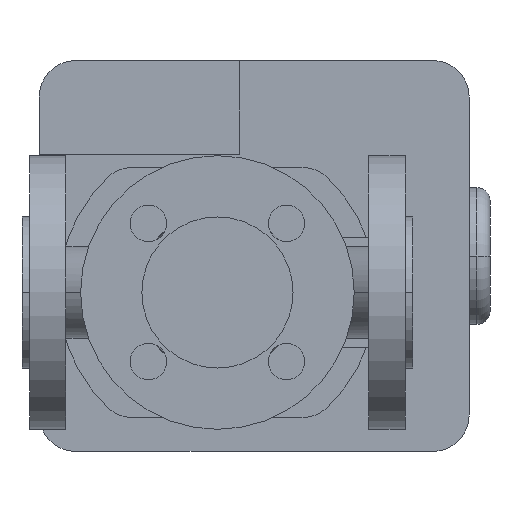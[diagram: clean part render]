
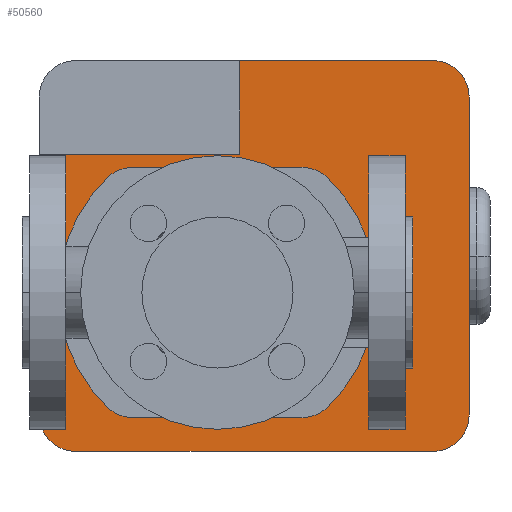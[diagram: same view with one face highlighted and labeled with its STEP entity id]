
A CAD part, front view. The second image highlights one B-rep face of the part: STEP entity #50560.
In plain terms, the highlighted planar face has unit normal (0, -1, 0).
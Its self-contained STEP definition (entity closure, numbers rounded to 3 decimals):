
#38390=CARTESIAN_POINT('',(134.96,313.,11.216));
#38400=VERTEX_POINT('',#38390);
#38430=CARTESIAN_POINT('',(125.,313.,0.));
#38440=DIRECTION('',(0.,1.,0.));
#38450=DIRECTION('',(0.,0.,1.));
#38460=AXIS2_PLACEMENT_3D('',#38430,#38440,#38450);
#38470=CIRCLE('',#38460,15.);
#38480=CARTESIAN_POINT('',(134.96,313.,-11.216));
#38490=VERTEX_POINT('',#38480);
#38500=EDGE_CURVE('',#38400,#38490,#38470,.T.);
#41220=CARTESIAN_POINT('',(117.116,313.,44.128));
#41230=VERTEX_POINT('',#41220);
#41260=CARTESIAN_POINT('',(75.,313.,0.));
#41270=DIRECTION('',(0.,1.,0.));
#41280=DIRECTION('',(0.69,0.,0.723));
#41290=AXIS2_PLACEMENT_3D('',#41260,#41270,#41280);
#41300=CIRCLE('',#41290,61.);
#41310=EDGE_CURVE('',#41230,#38400,#41300,.T.);
#41700=CARTESIAN_POINT('',(15.04,313.,-11.216));
#41710=VERTEX_POINT('',#41700);
#41740=CARTESIAN_POINT('',(25.,313.,0.));
#41750=DIRECTION('',(0.,1.,0.));
#41760=DIRECTION('',(0.,0.,-1.));
#41770=AXIS2_PLACEMENT_3D('',#41740,#41750,#41760);
#41780=CIRCLE('',#41770,15.);
#41790=CARTESIAN_POINT('',(15.04,313.,11.216));
#41800=VERTEX_POINT('',#41790);
#41810=EDGE_CURVE('',#41710,#41800,#41780,.T.);
#42800=CARTESIAN_POINT('',(32.884,313.,-44.128));
#42810=VERTEX_POINT('',#42800);
#42840=CARTESIAN_POINT('',(75.,313.,0.));
#42850=DIRECTION('',(0.,1.,0.));
#42860=DIRECTION('',(-0.69,0.,-0.723));
#42870=AXIS2_PLACEMENT_3D('',#42840,#42850,#42860);
#42880=CIRCLE('',#42870,61.);
#42890=EDGE_CURVE('',#42810,#41710,#42880,.T.);
#45200=CARTESIAN_POINT('',(157.6,313.,-61.));
#45210=VERTEX_POINT('',#45200);
#45260=CARTESIAN_POINT('',(157.6,313.,-47.));
#45270=DIRECTION('',(0.,1.,0.));
#45280=DIRECTION('',(1.,0.,0.));
#45290=AXIS2_PLACEMENT_3D('',#45260,#45270,#45280);
#45300=CIRCLE('',#45290,14.);
#45310=CARTESIAN_POINT('',(171.6,313.,-47.));
#45320=VERTEX_POINT('',#45310);
#45330=EDGE_CURVE('',#45320,#45210,#45300,.T.);
#48150=CARTESIAN_POINT('',(171.6,313.,75.));
#48160=VERTEX_POINT('',#48150);
#48210=CARTESIAN_POINT('',(157.6,313.,75.));
#48220=DIRECTION('',(0.,1.,0.));
#48230=DIRECTION('',(0.,0.,1.));
#48240=AXIS2_PLACEMENT_3D('',#48210,#48220,#48230);
#48250=CIRCLE('',#48240,14.);
#48260=CARTESIAN_POINT('',(157.6,313.,89.));
#48270=VERTEX_POINT('',#48260);
#48280=EDGE_CURVE('',#48270,#48160,#48250,.T.);
#48700=CARTESIAN_POINT('',(171.6,313.,75.));
#48710=DIRECTION('',(0.,0.,-1.));
#48720=VECTOR('',#48710,1.);
#48730=LINE('',#48700,#48720);
#48740=EDGE_CURVE('',#48160,#45320,#48730,.T.);
#49270=CARTESIAN_POINT('',(75.,313.,0.));
#49280=DIRECTION('',(0.,1.,0.));
#49290=DIRECTION('',(0.,0.,1.));
#49300=AXIS2_PLACEMENT_3D('',#49270,#49280,#49290);
#49310=PLANE('',#49300);
#49320=ORIENTED_EDGE('',*,*,#41310,.T.);
#49330=CARTESIAN_POINT('',(107.45,313.,34.));
#49340=DIRECTION('',(0.,1.,0.));
#49350=DIRECTION('',(0.,0.,1.));
#49360=AXIS2_PLACEMENT_3D('',#49330,#49340,#49350);
#49370=CIRCLE('',#49360,14.);
#49380=CARTESIAN_POINT('',(107.45,313.,48.));
#49390=VERTEX_POINT('',#49380);
#49400=EDGE_CURVE('',#49390,#41230,#49370,.T.);
#49410=ORIENTED_EDGE('',*,*,#49400,.T.);
#49420=CARTESIAN_POINT('',(58.775,313.,48.));
#49430=DIRECTION('',(1.,0.,0.));
#49440=VECTOR('',#49430,1.);
#49450=LINE('',#49420,#49440);
#49460=CARTESIAN_POINT('',(42.55,313.,48.));
#49470=VERTEX_POINT('',#49460);
#49480=EDGE_CURVE('',#49470,#49390,#49450,.T.);
#49490=ORIENTED_EDGE('',*,*,#49480,.T.);
#49500=CARTESIAN_POINT('',(42.55,313.,34.));
#49510=DIRECTION('',(0.,1.,0.));
#49520=DIRECTION('',(-0.69,0.,0.723));
#49530=AXIS2_PLACEMENT_3D('',#49500,#49510,#49520);
#49540=CIRCLE('',#49530,14.);
#49550=CARTESIAN_POINT('',(32.884,313.,44.128));
#49560=VERTEX_POINT('',#49550);
#49570=EDGE_CURVE('',#49560,#49470,#49540,.T.);
#49580=ORIENTED_EDGE('',*,*,#49570,.T.);
#49590=CARTESIAN_POINT('',(75.,313.,0.));
#49600=DIRECTION('',(0.,1.,0.));
#49610=DIRECTION('',(-0.69,0.,-0.723));
#49620=AXIS2_PLACEMENT_3D('',#49590,#49600,#49610);
#49630=CIRCLE('',#49620,61.);
#49640=EDGE_CURVE('',#41800,#49560,#49630,.T.);
#49650=ORIENTED_EDGE('',*,*,#49640,.T.);
#49660=ORIENTED_EDGE('',*,*,#41810,.T.);
#49670=ORIENTED_EDGE('',*,*,#42890,.T.);
#49680=CARTESIAN_POINT('',(42.55,313.,-34.));
#49690=DIRECTION('',(0.,1.,0.));
#49700=DIRECTION('',(0.,0.,-1.));
#49710=AXIS2_PLACEMENT_3D('',#49680,#49690,#49700);
#49720=CIRCLE('',#49710,14.);
#49730=CARTESIAN_POINT('',(42.55,313.,-48.));
#49740=VERTEX_POINT('',#49730);
#49750=EDGE_CURVE('',#49740,#42810,#49720,.T.);
#49760=ORIENTED_EDGE('',*,*,#49750,.T.);
#49770=CARTESIAN_POINT('',(91.225,313.,-48.));
#49780=DIRECTION('',(-1.,0.,0.));
#49790=VECTOR('',#49780,1.);
#49800=LINE('',#49770,#49790);
#49810=CARTESIAN_POINT('',(107.45,313.,-48.));
#49820=VERTEX_POINT('',#49810);
#49830=EDGE_CURVE('',#49820,#49740,#49800,.T.);
#49840=ORIENTED_EDGE('',*,*,#49830,.T.);
#49850=CARTESIAN_POINT('',(107.45,313.,-34.));
#49860=DIRECTION('',(0.,1.,0.));
#49870=DIRECTION('',(0.69,0.,-0.723));
#49880=AXIS2_PLACEMENT_3D('',#49850,#49860,#49870);
#49890=CIRCLE('',#49880,14.);
#49900=CARTESIAN_POINT('',(117.116,313.,-44.128));
#49910=VERTEX_POINT('',#49900);
#49920=EDGE_CURVE('',#49910,#49820,#49890,.T.);
#49930=ORIENTED_EDGE('',*,*,#49920,.T.);
#49940=CARTESIAN_POINT('',(75.,313.,0.));
#49950=DIRECTION('',(0.,1.,0.));
#49960=DIRECTION('',(0.69,0.,0.723));
#49970=AXIS2_PLACEMENT_3D('',#49940,#49950,#49960);
#49980=CIRCLE('',#49970,61.);
#49990=EDGE_CURVE('',#38490,#49910,#49980,.T.);
#50000=ORIENTED_EDGE('',*,*,#49990,.T.);
#50010=ORIENTED_EDGE('',*,*,#38500,.T.);
#50020=EDGE_LOOP('',(#50010,#50000,#49930,#49840,#49760,#49670,#49660,
#49650,#49580,#49490,#49410,#49320));
#50030=FACE_BOUND('',#50020,.T.);
#50040=CARTESIAN_POINT('',(83.6,313.,26.5));
#50050=DIRECTION('',(0.,0.,-1.));
#50060=VECTOR('',#50050,1.);
#50070=LINE('',#50040,#50060);
#50080=CARTESIAN_POINT('',(83.6,313.,89.));
#50090=VERTEX_POINT('',#50080);
#50100=CARTESIAN_POINT('',(83.6,313.,53.));
#50110=VERTEX_POINT('',#50100);
#50120=EDGE_CURVE('',#50090,#50110,#50070,.T.);
#50130=ORIENTED_EDGE('',*,*,#50120,.T.);
#50140=CARTESIAN_POINT('',(20.6,313.,89.));
#50150=DIRECTION('',(1.,0.,0.));
#50160=VECTOR('',#50150,1.);
#50170=LINE('',#50140,#50160);
#50180=EDGE_CURVE('',#50090,#48270,#50170,.T.);
#50190=ORIENTED_EDGE('',*,*,#50180,.F.);
#50200=ORIENTED_EDGE('',*,*,#48280,.F.);
#50210=ORIENTED_EDGE('',*,*,#48740,.F.);
#50220=ORIENTED_EDGE('',*,*,#45330,.F.);
#50230=CARTESIAN_POINT('',(157.6,313.,-61.));
#50240=DIRECTION('',(-1.,0.,0.));
#50250=VECTOR('',#50240,1.);
#50260=LINE('',#50230,#50250);
#50270=CARTESIAN_POINT('',(20.6,313.,-61.));
#50280=VERTEX_POINT('',#50270);
#50290=EDGE_CURVE('',#45210,#50280,#50260,.T.);
#50300=ORIENTED_EDGE('',*,*,#50290,.F.);
#50310=CARTESIAN_POINT('',(20.6,313.,-47.));
#50320=DIRECTION('',(0.,1.,0.));
#50330=DIRECTION('',(0.,0.,-1.));
#50340=AXIS2_PLACEMENT_3D('',#50310,#50320,#50330);
#50350=CIRCLE('',#50340,14.);
#50360=CARTESIAN_POINT('',(6.6,313.,-47.));
#50370=VERTEX_POINT('',#50360);
#50380=EDGE_CURVE('',#50280,#50370,#50350,.T.);
#50390=ORIENTED_EDGE('',*,*,#50380,.F.);
#50400=CARTESIAN_POINT('',(6.6,313.,-47.));
#50410=DIRECTION('',(0.,0.,1.));
#50420=VECTOR('',#50410,1.);
#50430=LINE('',#50400,#50420);
#50440=CARTESIAN_POINT('',(6.6,313.,53.));
#50450=VERTEX_POINT('',#50440);
#50460=EDGE_CURVE('',#50370,#50450,#50430,.T.);
#50470=ORIENTED_EDGE('',*,*,#50460,.F.);
#50480=CARTESIAN_POINT('',(40.3,313.,53.));
#50490=DIRECTION('',(-1.,0.,0.));
#50500=VECTOR('',#50490,1.);
#50510=LINE('',#50480,#50500);
#50520=EDGE_CURVE('',#50110,#50450,#50510,.T.);
#50530=ORIENTED_EDGE('',*,*,#50520,.T.);
#50540=EDGE_LOOP('',(#50530,#50470,#50390,#50300,#50220,#50210,#50200,
#50190,#50130));
#50550=FACE_OUTER_BOUND('',#50540,.T.);
#50560=ADVANCED_FACE('',(#50030,#50550),#49310,.F.);
